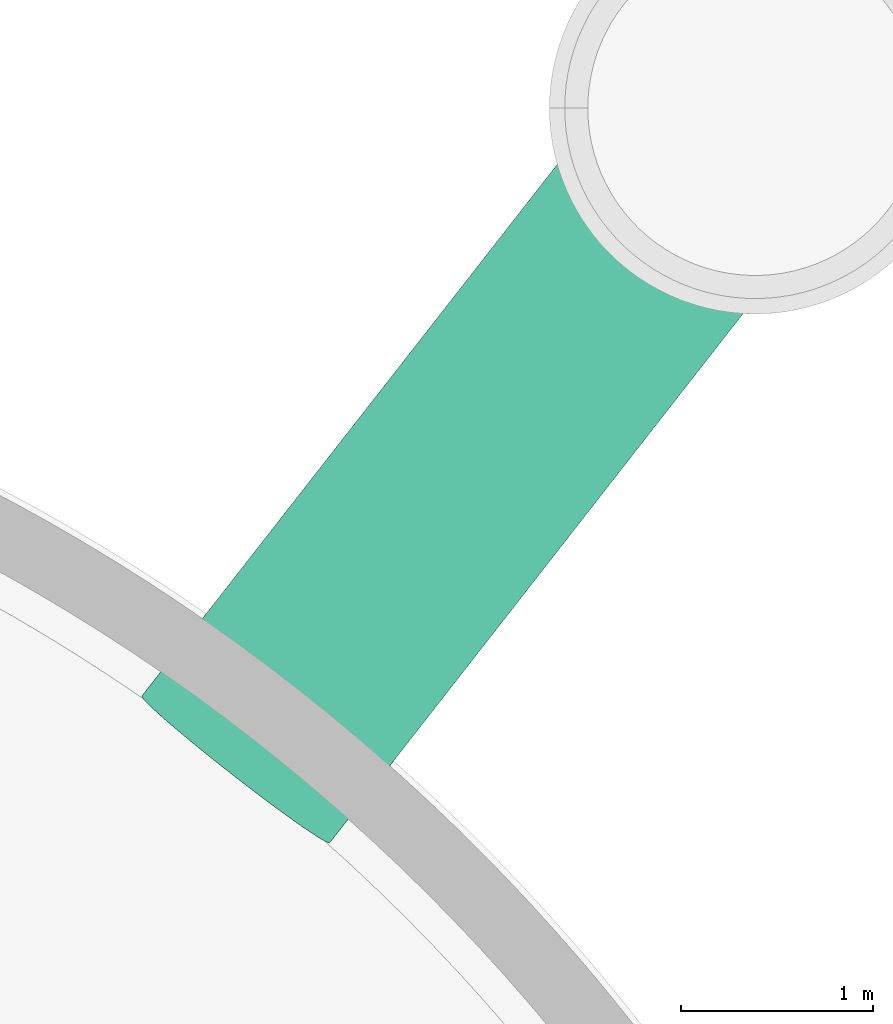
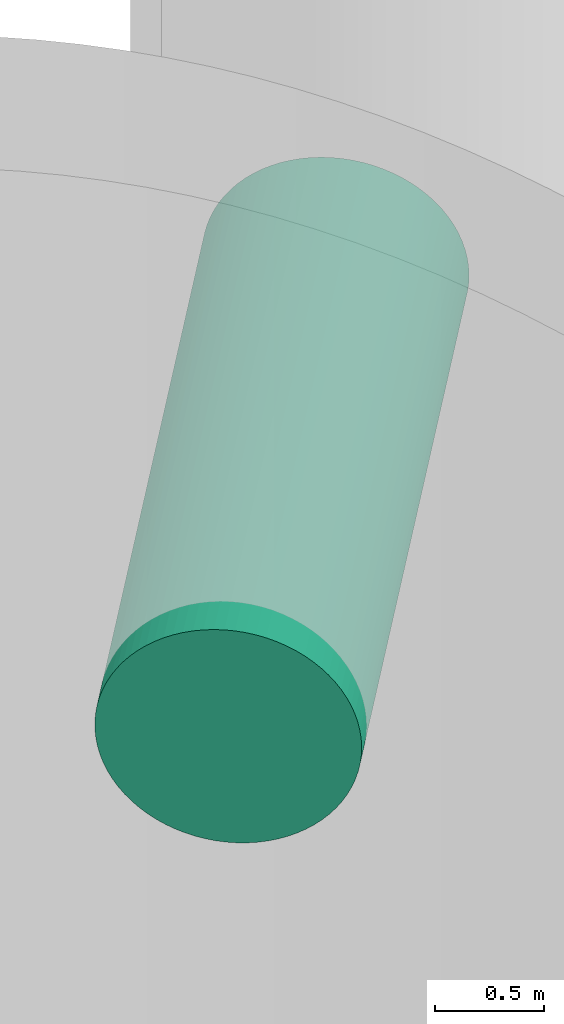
# One storey, part 5 of 5: 1 flow segment.
"""IFC2X3 building model written with IfcOpenShell, lengths in centimetres."""

import ifcopenshell
import ifcopenshell.guid

model = None  # the IFC model being written
_history = None  # IfcOwnerHistory: only IFC2X3 demands one
_inside = {}  # id of a spatial element -> (the spatial element, [elements in it])
_under = {}  # id of a project, library or spatial element -> (it, [spatial elements below it])
_declared = {}  # id of a project -> (the project, [libraries it declares])
_typed = {}  # id of a type object -> (the type object, [elements of that type])
_made_of = {}  # id of a material, layer set ... -> (it, [elements and type objects made of it])


def new_model(schema):
    """Start an empty IFC model of exactly this schema.

    Asked for "IFC4X3", IfcOpenShell would pick the latest addendum, in which some entities
    have other attributes; the version numbers below select the first issue.
    IFC2X3 requires an IfcOwnerHistory on every rooted entity: one is made here for all.
    """
    global model, _history
    if schema == "IFC4X3":
        model = ifcopenshell.file(schema_version=(4, 3, 0, 0))
    else:
        model = ifcopenshell.file(schema=schema)
    _inside.clear()
    _under.clear()
    _declared.clear()
    _typed.clear()
    _made_of.clear()
    _history = None
    if model.schema == "IFC2X3":
        org = make("IfcOrganization", Name="unknown")
        user = make(
            "IfcPersonAndOrganization",
            ThePerson=make("IfcPerson", FamilyName="unknown"),
            TheOrganization=org,
        )
        app = make(
            "IfcApplication",
            ApplicationDeveloper=org,
            Version="unknown",
            ApplicationFullName="unknown",
            ApplicationIdentifier="unknown",
        )
        _history = make(
            "IfcOwnerHistory",
            OwningUser=user,
            OwningApplication=app,
            ChangeAction="ADDED",
            CreationDate=0,
        )
    return model


def make(cls, **values):
    """One entity of the class cls with the attributes given. An attribute that is None is left unset."""
    return model.create_entity(
        cls, **{name: value for name, value in values.items() if value is not None}
    )


def entity(cls, *values):
    """Any entity or typed value of the class cls, its attributes in the order of the schema. None: left unset."""
    e = model.create_entity(cls)
    for i, value in enumerate(values):
        if value is not None:
            e[i] = value
    return e


def rooted(cls, **values):
    """An entity with a GlobalId (a new one), such as an element, a storey or a relation."""
    return make(cls, GlobalId=ifcopenshell.guid.new(), OwnerHistory=_history, **values)


def si_unit(unit_type, name, prefix=None):
    """IfcSIUnit, for example si_unit("LENGTHUNIT", "METRE", prefix="MILLI")."""
    return make("IfcSIUnit", UnitType=unit_type, Prefix=prefix, Name=name)


def converted_unit(unit_type, name, factor, base, dimensions=None, offset=None):
    """IfcConversionBasedUnit, such as the inch: factor (a typed value) times the base unit."""
    return make(
        "IfcConversionBasedUnit"
        if offset is None
        else "IfcConversionBasedUnitWithOffset",
        ConversionOffset=offset,
        Dimensions=None
        if dimensions is None
        else entity("IfcDimensionalExponents", *dimensions),
        UnitType=unit_type,
        Name=name,
        ConversionFactor=make(
            "IfcMeasureWithUnit", ValueComponent=factor, UnitComponent=base
        ),
    )


def derived_unit(unit_type, elements):
    """IfcDerivedUnit: a product of units, each with its exponent."""
    return make(
        "IfcDerivedUnit",
        Elements=[
            make("IfcDerivedUnitElement", Unit=unit, Exponent=power)
            for unit, power in elements
        ],
        UnitType=unit_type,
    )


def assignment(units):
    """IfcUnitAssignment: the units of a project."""
    return None if units is None else make("IfcUnitAssignment", Units=units)


def point(xyz):
    """IfcCartesianPoint."""
    return None if xyz is None else make("IfcCartesianPoint", Coordinates=xyz)


def direction(xyz):
    """IfcDirection."""
    return None if xyz is None else make("IfcDirection", DirectionRatios=xyz)


def frame(location, z_axis=None, x_axis=None):
    """IfcAxis2Placement3D, a coordinate frame: its origin and axes. An axis left out is left unset."""
    return make(
        "IfcAxis2Placement3D",
        Location=point(location),
        Axis=direction(z_axis),
        RefDirection=direction(x_axis),
    )


def frame_2d(location, x_axis=None):
    """IfcAxis2Placement2D, a coordinate frame in the plane: its origin and x axis."""
    return make(
        "IfcAxis2Placement2D", Location=point(location), RefDirection=direction(x_axis)
    )


def origin():
    """The frame at (0, 0, 0) with its axes left unset."""
    return frame((0.0, 0.0, 0.0))


def place(relative_to, where):
    """IfcLocalPlacement: puts the frame where relative to a parent placement (None: the world)."""
    return make(
        "IfcLocalPlacement", PlacementRelTo=relative_to, RelativePlacement=where
    )


def context(
    kind, dimensions, precision=None, world=None, true_north=None, identifier=None
):
    """IfcGeometricRepresentationContext, for example the 3D "Model" context."""
    return make(
        "IfcGeometricRepresentationContext",
        ContextIdentifier=identifier,
        ContextType=kind,
        CoordinateSpaceDimension=dimensions,
        Precision=precision,
        WorldCoordinateSystem=world,
        TrueNorth=true_north,
    )


def subcontext(parent, identifier, kind, view, scale=None):
    """IfcGeometricRepresentationSubContext, for example "Body" below "Model"."""
    return make(
        "IfcGeometricRepresentationSubContext",
        ContextIdentifier=identifier,
        ContextType=kind,
        ParentContext=parent,
        TargetScale=scale,
        TargetView=view,
    )


def project(units=None, contexts=None):
    """IfcProject with its units and contexts."""
    return rooted(
        "IfcProject",
        Name="project",
        RepresentationContexts=contexts,
        UnitsInContext=assignment(units),
    )


def spatial(cls, under=None, at=None, **own):
    """A site, building, storey or space (cls), placed at a placement, below another one or the project."""
    s = rooted(cls, ObjectPlacement=at, **own)
    if under is not None:
        _under.setdefault(under.id(), (under, []))[1].append(s)
    return s


def profile(cls, at=None, kind="AREA", **sizes):
    """A parametric profile (cls). Its sizes go by their IFC names, for example OverallWidth=200.0."""
    return make(cls, ProfileType=kind, Position=at, **sizes)


def circle(**sizes):
    """IfcCircleProfileDef."""
    return profile("IfcCircleProfileDef", **sizes)


def extrude(swept, where, along, depth):
    """IfcExtrudedAreaSolid: the profile swept, set in the frame where, extruded along a direction by depth."""
    return make(
        "IfcExtrudedAreaSolid",
        SweptArea=swept,
        Position=where,
        ExtrudedDirection=direction(along),
        Depth=depth,
    )


def shape(context_of_items, identifier, shape_type, items):
    """IfcShapeRepresentation: the items that make up one representation, for example the "Body"."""
    return make(
        "IfcShapeRepresentation",
        ContextOfItems=context_of_items,
        RepresentationIdentifier=identifier,
        RepresentationType=shape_type,
        Items=items,
    )


def made_of(thing, what):
    """Note that an element or type object is made of a material, layer set ...; save() writes the relation."""
    if what is not None:
        _made_of.setdefault(what.id(), (what, []))[1].append(thing)
    return thing


def type_object(cls, material=None, **own):
    """A type object (cls), such as IfcWallType, which elements share."""
    return made_of(rooted(cls, **own), material)


def element(
    cls,
    number,
    at=None,
    inside=None,
    cuts=None,
    type_object=None,
    material=None,
    context=None,
    identifier="Body",
    shape_type=None,
    held_by="IfcProductDefinitionShape",
    body=None,
    shapes=None,
    **own,
):
    """One element of the class cls, such as IfcWall. Its Tag is "e" and its number.

    at: its placement. inside: the storey or other place that contains it. cuts: it is an
    opening in that element (IfcRelVoidsElement). A single representation is given by context,
    identifier, shape_type and body (its items); several are given by shapes. held_by: the class
    of the entity that holds the representations. save() writes the other relations.
    """
    e = rooted(cls, Tag="e%d" % number, ObjectPlacement=at, **own)
    if body is not None:
        shapes = [shape(context, identifier, shape_type, body)]
    if shapes is not None:
        e.Representation = make(held_by, Representations=shapes)
    if inside is not None:
        _inside.setdefault(inside.id(), (inside, []))[1].append(e)
    if cuts is not None:
        rooted(
            "IfcRelVoidsElement", RelatingBuildingElement=cuts, RelatedOpeningElement=e
        )
    if type_object is not None:
        _typed.setdefault(type_object.id(), (type_object, []))[1].append(e)
    return made_of(e, material)


def aggregate(whole, parts):
    """IfcRelAggregates: a whole, such as a stair, and the parts it consists of."""
    return rooted("IfcRelAggregates", RelatingObject=whole, RelatedObjects=parts)


def save(model, path):
    """Write the relations noted so far, then the file.

    IfcRelAggregates (storeys below a building ...), IfcRelContainedInSpatialStructure (elements
    in a storey), IfcRelDefinesByType, IfcRelAssociatesMaterial and IfcRelDeclares: one each for
    every whole, place, type object, material and project.
    """
    for whole, parts in _under.values():
        aggregate(whole, parts)
    for where, things in _inside.values():
        rooted(
            "IfcRelContainedInSpatialStructure",
            RelatedElements=things,
            RelatingStructure=where,
        )
    for kind, things in _typed.values():
        rooted("IfcRelDefinesByType", RelatedObjects=things, RelatingType=kind)
    for what, things in _made_of.values():
        rooted("IfcRelAssociatesMaterial", RelatedObjects=things, RelatingMaterial=what)
    for by, libraries in _declared.values():
        rooted("IfcRelDeclares", RelatingContext=by, RelatedDefinitions=libraries)
    model.write(path)


model = new_model("IFC2X3")

# Units and contexts
model_context = context("Model", 3, precision=0.001, world=origin(), true_north=direction((6.12303176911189e-17, 1.0)))
body_context = subcontext(model_context, "Body", "Model", "MODEL_VIEW")
ifc_project = project(units=[si_unit("LENGTHUNIT", "METRE", prefix="CENTI"), si_unit("AREAUNIT", "SQUARE_METRE"), si_unit("VOLUMEUNIT", "CUBIC_METRE"), converted_unit("PLANEANGLEUNIT", "DEGREE", entity("IfcRatioMeasure", 0.0174532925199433), si_unit("PLANEANGLEUNIT", "RADIAN"), dimensions=[0, 0, 0, 0, 0, 0, 0]), si_unit("MASSUNIT", "GRAM", prefix="KILO"), derived_unit("MASSDENSITYUNIT", [(si_unit("MASSUNIT", "GRAM", prefix="KILO"), 1), (si_unit("LENGTHUNIT", "METRE"), -3)]), si_unit("TIMEUNIT", "SECOND"), si_unit("FREQUENCYUNIT", "HERTZ"), si_unit("THERMODYNAMICTEMPERATUREUNIT", "DEGREE_CELSIUS"), derived_unit("THERMALTRANSMITTANCEUNIT", [(si_unit("MASSUNIT", "GRAM", prefix="KILO"), 1), (si_unit("THERMODYNAMICTEMPERATUREUNIT", "KELVIN"), -1), (si_unit("TIMEUNIT", "SECOND"), -3)]), derived_unit("VOLUMETRICFLOWRATEUNIT", [(si_unit("LENGTHUNIT", "METRE"), 3), (si_unit("TIMEUNIT", "SECOND"), -1)]), si_unit("ELECTRICCURRENTUNIT", "AMPERE"), si_unit("ELECTRICVOLTAGEUNIT", "VOLT"), si_unit("POWERUNIT", "WATT"), si_unit("FORCEUNIT", "NEWTON", prefix="KILO"), si_unit("ILLUMINANCEUNIT", "LUX"), si_unit("LUMINOUSFLUXUNIT", "LUMEN"), si_unit("LUMINOUSINTENSITYUNIT", "CANDELA"), derived_unit("USERDEFINED", [(si_unit("MASSUNIT", "GRAM", prefix="KILO"), -1), (si_unit("LENGTHUNIT", "METRE"), -2), (si_unit("TIMEUNIT", "SECOND"), 3), (si_unit("LUMINOUSFLUXUNIT", "LUMEN"), 1)]), derived_unit("LINEARVELOCITYUNIT", [(si_unit("LENGTHUNIT", "METRE"), 1), (si_unit("TIMEUNIT", "SECOND"), -1)]), si_unit("PRESSUREUNIT", "PASCAL"), derived_unit("USERDEFINED", [(si_unit("LENGTHUNIT", "METRE"), -2), (si_unit("MASSUNIT", "GRAM", prefix="KILO"), 1), (si_unit("TIMEUNIT", "SECOND"), -2)])], contexts=[model_context])

# Site, building, storey
site_placement = place(None, origin())
site = spatial("IfcSite", under=ifc_project, at=site_placement, Name="Default", CompositionType="ELEMENT")
building_placement = place(site_placement, origin())
building = spatial("IfcBuilding", under=site, at=building_placement, CompositionType="ELEMENT")
storey_placement = place(building_placement, frame((0.0, 0.0, -870.0)))
storey = spatial("IfcBuildingStorey", under=building, at=storey_placement, Name="Niveau haut radier", CompositionType="ELEMENT", Elevation=-870.000000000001)

# Flow segment
pipe_segment_type = type_object("IfcPipeSegmentType", Name="Canalisation:Buse béton EP", PredefinedType="NOTDEFINED")
flow_segment_placement = place(storey_placement, origin())
element("IfcFlowSegment", 1, at=flow_segment_placement, inside=storey, type_object=pipe_segment_type, Name="Canalisation:Buse béton EP", ObjectType="Canalisation:Buse béton EP", context=body_context, shape_type="SweptSolid", body=[
    extrude(circle(Radius=62.0, at=frame_2d((8.53310942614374e-14, -1.04572166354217e-13), x_axis=(1.0, 0.0))), frame((606.97404255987, 772.319653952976, 380.0), z_axis=(0.61478306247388, 0.786886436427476, 0.0533996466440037), x_axis=(0.788010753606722, -0.615661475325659, 0.0)), (0.0, 0.0, 1.0), 355.807597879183),
])

save(model, "model.ifc")
